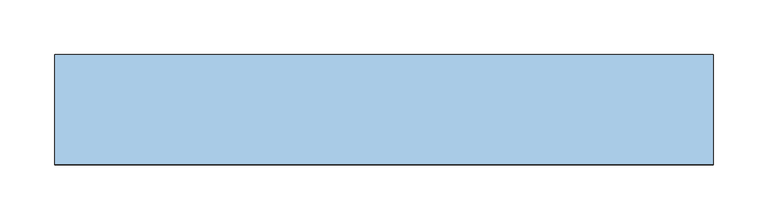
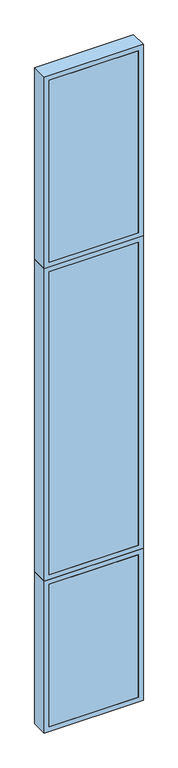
"""IFC4 building model written with IfcOpenShell, lengths in millimetres: window geometry, TRP_CP_ARC_FI_V1 : VE_VF2_60_420."""

from ifc_helpers import new_model, si_unit, frame, origin, place, context, project, spatial, polyline, outline, extrude, source, transform, mapped, element, save


def window_d7734fc0(model_context):
    return source(origin(), model_context, "Body", "SweptSolid", [
        extrude(outline(polyline([(270.0, -50.0), (-270.0, -50.0), (-270.0, -30.0), (270.0, -30.0), (270.0, -50.0)])), frame((0.0, 0.0, 30.0), z_axis=(0.0, 0.0, 1.0), x_axis=(1.0, 0.0, 0.0)), (0.0, 0.0, 1.0), 913.0),
        extrude(outline(polyline([(973.0, 300.0), (973.0, -300.0), (0.0, -300.0), (0.0, 300.0), (973.0, 300.0)]), holes=[polyline([(30.0, 270.0), (30.0, -270.0), (943.0, -270.0), (943.0, 270.0), (30.0, 270.0)])]), frame((0.0, -50.0, 0.0), z_axis=(0.0, 1.0, 0.0), x_axis=(0.0, 0.0, 1.0)), (0.0, 0.0, 1.0), 100.0),
        extrude(outline(polyline([(2973.0, 300.0), (2973.0, -300.0), (973.0, -300.0), (973.0, 300.0), (2973.0, 300.0)]), holes=[polyline([(1003.0, 270.0), (1003.0, -270.0), (2943.0, -270.0), (2943.0, 270.0), (1003.0, 270.0)])]), frame((0.0, -50.0, 0.0), z_axis=(0.0, 1.0, 0.0), x_axis=(0.0, 0.0, 1.0)), (0.0, 0.0, 1.0), 100.0),
        extrude(outline(polyline([(270.0, -50.0), (-270.0, -50.0), (-270.0, -30.0), (270.0, -30.0), (270.0, -50.0)])), frame((0.0, 0.0, 1003.0), z_axis=(0.0, 0.0, 1.0), x_axis=(1.0, 0.0, 0.0)), (0.0, 0.0, 1.0), 1940.0),
        extrude(outline(polyline([(4200.0, 300.0), (4200.0, -300.0), (2973.0, -300.0), (2973.0, 300.0), (4200.0, 300.0)]), holes=[polyline([(3003.0, 270.0), (3003.0, -270.0), (4170.0, -270.0), (4170.0, 270.0), (3003.0, 270.0)])]), frame((0.0, -50.0, 0.0), z_axis=(0.0, 1.0, 0.0), x_axis=(0.0, 0.0, 1.0)), (0.0, 0.0, 1.0), 100.0),
        extrude(outline(polyline([(270.0, -50.0), (-270.0, -50.0), (-270.0, -30.0), (270.0, -30.0), (270.0, -50.0)])), frame((0.0, 0.0, 3003.0), z_axis=(0.0, 0.0, 1.0), x_axis=(1.0, 0.0, 0.0)), (0.0, 0.0, 1.0), 1167.0),
    ])


if __name__ == "__main__":
    model = new_model("IFC4")
    model_context = context("Model", 3, world=origin())
    ifc_project = project(units=[si_unit("LENGTHUNIT", "METRE", prefix="MILLI")], contexts=[model_context])
    site = spatial("IfcSite", under=ifc_project)
    building = spatial("IfcBuilding", under=site)
    placement = place(None, origin())
    window_shape = window_d7734fc0(model_context)
    element("IfcWindow", 1, ObjectType="TRP_CP_ARC_FI_V1 : VE_VF2_60_420", at=placement, inside=building, context=model_context, shape_type="MappedRepresentation", body=[
        mapped(window_shape, transform((0.0, 0.0, 0.0), x_axis=(1.0, 0.0, 0.0), y_axis=(0.0, 1.0, 0.0), z_axis=(0.0, 0.0, 1.0))),
    ])
    save(model, "model.ifc")
